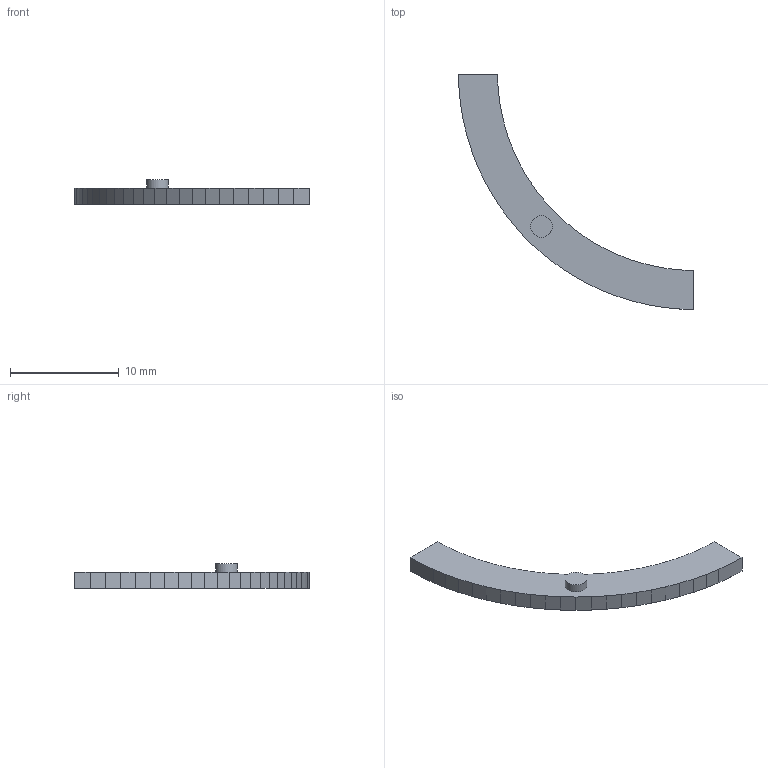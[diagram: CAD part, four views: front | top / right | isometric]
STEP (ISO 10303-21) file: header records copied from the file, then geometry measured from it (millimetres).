
FILE_DESCRIPTION(('Open CASCADE Model'),'2;1');
FILE_NAME('Open CASCADE Shape Model','2026-10-27T10:00:44',('Author'),( 'Open CASCADE'),'Open CASCADE STEP processor 8.0','build123d', 'Unknown');
FILE_SCHEMA(('AUTOMOTIVE_DESIGN { 1 0 10303 214 1 1 1 1 }'));
Length unit declared in the file: millimetre
Products named in the file (2): =>[0:1:1:2]; COMPOUND
Assembly tree (1 placements, depth 2):
  =>[0:1:1:2]
    COMPOUND
Bounding box: 21.66 x 21.66 x 2.3 mm (x, y, z)
Volume: 170.4 mm3; surface area: 333 mm2
Topology: 1 solids, 1 shells, 54 faces, 153 edges, 102 vertices
Faces by surface type: plane 53, cylinder 1
Full cylindrical faces by diameter (mm): 2 x1
Entity records: 3736 total; most frequent: CARTESIAN_POINT 617, DIRECTION 573, LINE 455, VECTOR 455, ORIENTED_EDGE 306, PCURVE 306, DEFINITIONAL_REPRESENTATION 306, EDGE_CURVE 153
